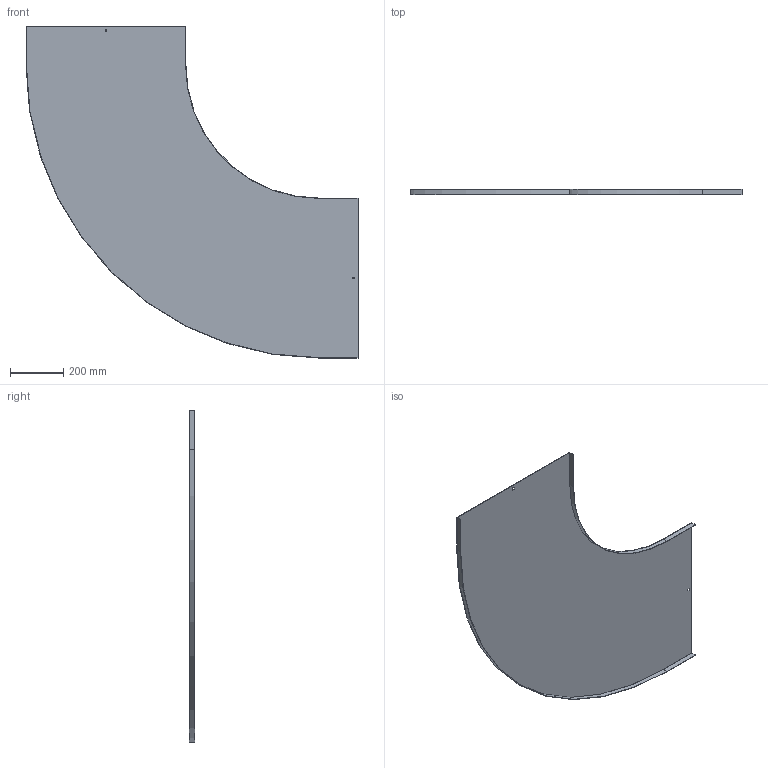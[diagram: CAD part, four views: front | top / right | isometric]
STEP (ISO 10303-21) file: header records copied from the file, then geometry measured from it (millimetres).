
FILE_DESCRIPTION (( 'STEP AP214' ), '1' );
FILE_NAME ('10N5R600.step', '2025-02-21T14:27:47', ( '' ), ( '' ), 'SwSTEP 2.0', 'SolidWorks 2023', '' );
FILE_SCHEMA (( 'AUTOMOTIVE_DESIGN' ));
Length unit declared in the file: millimetre
Products named in the file (1): 10N5R600
Bounding box: 1251.5 x 20 x 1251.5 mm (x, y, z)
Volume: 1494196.1 mm3; surface area: 1998944.3 mm2
Topology: 1 solids, 1 shells, 26 faces, 72 edges, 48 vertices
Faces by surface type: plane 22, cylinder 4
Entity records: 855 total; most frequent: CARTESIAN_POINT 147, ORIENTED_EDGE 144, DIRECTION 134, EDGE_CURVE 72, LINE 64, VECTOR 64, VERTEX_POINT 48, AXIS2_PLACEMENT_3D 35
